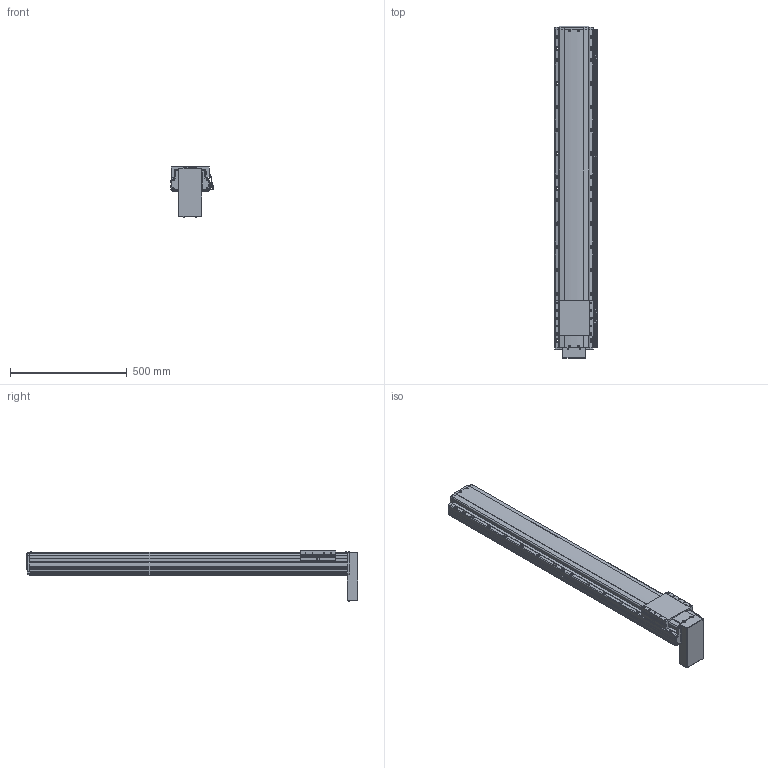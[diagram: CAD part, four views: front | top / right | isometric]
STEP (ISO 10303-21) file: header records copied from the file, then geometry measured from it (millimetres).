
FILE_DESCRIPTION(('STEP AP214'),'1');
FILE_NAME('Z:/Web/3D/PSA165/STP/PSA165-1100 (3D)/PSA165ㅁㅁ-1100PB+3SR.stp','2014-06-24T10:31:50',(' '),(' '),'Spatial InterOp 3D',' ',' ');
FILE_SCHEMA(('automotive_design'));
Length unit declared in the file: millimetre
Products named in the file (47): 스크루 : Round - M4.0 x 12.0; RRCV-PA160; BASE; 스크루 : Round - M4.0 x 10.0; RN15; Screw 20; SLIDE; FRCV; MTPL CV- PB; 스크루 : Round - M3.0 x 6.0; 1; 2; M3.0 x 6.0; SRL-16x17-360L; SGD-SAN150; EE-SX674; SBK-SX674-352; BHCS M4.0 x 10.0
Bounding box: 181 x 1420.8 x 215.96 mm (x, y, z)
Volume: 19969167.6 mm3; surface area: 1380240.3 mm2
Topology: 47 solids, 47 shells, 2764 faces, 7372 edges, 4724 vertices
Faces by surface type: plane 1549, cylinder 848, cone 254, sphere 72, bspline 25, torus 16
Entity records: 111831 total; most frequent: CARTESIAN_POINT 19225, DIRECTION 14775, ORIENTED_EDGE 14420, EDGE_CURVE 7210, AXIS2_PLACEMENT_3D 5014, LINE 4747, VECTOR 4747, VERTEX_POINT 4724
